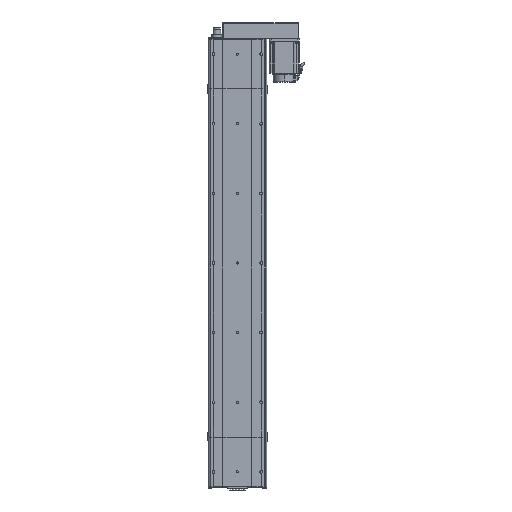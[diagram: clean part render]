
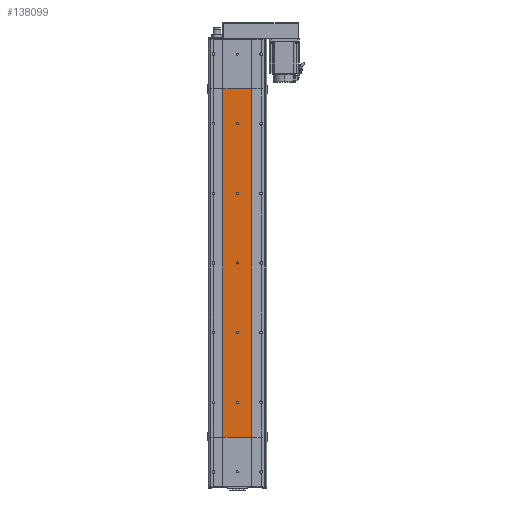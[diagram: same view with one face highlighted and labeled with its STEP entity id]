
A CAD part, front view. The second image highlights one B-rep face of the part: STEP entity #138099.
In plain terms, the highlighted planar face has unit normal (0, -1, 0).
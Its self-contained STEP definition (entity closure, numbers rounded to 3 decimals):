
#26513 = CARTESIAN_POINT ( 'NONE',  ( 0., 0., 97. ) ) ;
#28326 = DIRECTION ( 'NONE',  ( 0., 0., -1. ) ) ;
#28327 = DIRECTION ( 'NONE',  ( 0., -1., 0. ) ) ;
#28328 = CARTESIAN_POINT ( 'NONE',  ( 0., 0., 700. ) ) ;
#28343 = CARTESIAN_POINT ( 'NONE',  ( 0., 0., 497. ) ) ;
#28349 = AXIS2_PLACEMENT_3D ( 'NONE', #28328, #28327, #28326 ) ;
#28413 = CARTESIAN_POINT ( 'NONE',  ( 0., 0., 103. ) ) ;
#28511 = CIRCLE ( 'NONE', #28349, 3. ) ;
#28536 = CARTESIAN_POINT ( 'NONE',  ( 0., 0., 897. ) ) ;
#28731 = CARTESIAN_POINT ( 'NONE',  ( 0., 0., 903. ) ) ;
#28732 = AXIS2_PLACEMENT_3D ( 'NONE', #29014, #29012, #29011 ) ;
#28966 = CIRCLE ( 'NONE', #28732, 3. ) ;
#29011 = DIRECTION ( 'NONE',  ( 0., 0., -1. ) ) ;
#29012 = DIRECTION ( 'NONE',  ( 0., -1., 0. ) ) ;
#29014 = CARTESIAN_POINT ( 'NONE',  ( 0., 0., 900. ) ) ;
#29219 = DIRECTION ( 'NONE',  ( 0., 0., -1. ) ) ;
#29220 = AXIS2_PLACEMENT_3D ( 'NONE', #29224, #29235, #29219 ) ;
#29224 = CARTESIAN_POINT ( 'NONE',  ( 0., 0., 100. ) ) ;
#29233 = CIRCLE ( 'NONE', #29220, 3. ) ;
#29235 = DIRECTION ( 'NONE',  ( 0., -1., 0. ) ) ;
#29862 = AXIS2_PLACEMENT_3D ( 'NONE', #30709, #30715, #30660 ) ;
#29863 = CIRCLE ( 'NONE', #29862, 3. ) ;
#29941 = CARTESIAN_POINT ( 'NONE',  ( 0., 0., 303. ) ) ;
#30153 = AXIS2_PLACEMENT_3D ( 'NONE', #30388, #30387, #30386 ) ;
#30158 = CIRCLE ( 'NONE', #30153, 3. ) ;
#30307 = CARTESIAN_POINT ( 'NONE',  ( 41.5, 0., 0. ) ) ;
#30357 = CARTESIAN_POINT ( 'NONE',  ( 0., 0., 703. ) ) ;
#30363 = CARTESIAN_POINT ( 'NONE',  ( 0., 0., 297. ) ) ;
#30364 = DIRECTION ( 'NONE',  ( 0., 0., -1. ) ) ;
#30365 = DIRECTION ( 'NONE',  ( 0., -1., 0. ) ) ;
#30366 = CARTESIAN_POINT ( 'NONE',  ( 0., 0., 500. ) ) ;
#30367 = AXIS2_PLACEMENT_3D ( 'NONE', #30366, #30365, #30364 ) ;
#30369 = CIRCLE ( 'NONE', #30367, 3. ) ;
#30386 = DIRECTION ( 'NONE',  ( 0., 0., -1. ) ) ;
#30387 = DIRECTION ( 'NONE',  ( 0., -1., 0. ) ) ;
#30388 = CARTESIAN_POINT ( 'NONE',  ( 0., 0., 900. ) ) ;
#30401 = CIRCLE ( 'NONE', #30647, 3. ) ;
#30495 = CARTESIAN_POINT ( 'NONE',  ( 0., 0., 697. ) ) ;
#30589 = LINE ( 'NONE', #30600, #30686 ) ;
#30598 = DIRECTION ( 'NONE',  ( 1., 0., 0. ) ) ;
#30600 = CARTESIAN_POINT ( 'NONE',  ( 0., 0., 1000. ) ) ;
#30644 = CARTESIAN_POINT ( 'NONE',  ( 0., 0., 300. ) ) ;
#30647 = AXIS2_PLACEMENT_3D ( 'NONE', #30644, #30741, #30740 ) ;
#30660 = DIRECTION ( 'NONE',  ( 0., 0., -1. ) ) ;
#30686 = VECTOR ( 'NONE', #30598, 1000. ) ;
#30709 = CARTESIAN_POINT ( 'NONE',  ( 0., 0., 700. ) ) ;
#30715 = DIRECTION ( 'NONE',  ( 0., -1., 0. ) ) ;
#30740 = DIRECTION ( 'NONE',  ( 0., 0., -1. ) ) ;
#30741 = DIRECTION ( 'NONE',  ( 0., -1., 0. ) ) ;
#30747 = CARTESIAN_POINT ( 'NONE',  ( 0., 0., 503. ) ) ;
#30922 = AXIS2_PLACEMENT_3D ( 'NONE', #31172, #31153, #31152 ) ;
#30928 = FACE_BOUND ( 'NONE', #137991, .T. ) ;
#30933 = FACE_BOUND ( 'NONE', #137792, .T. ) ;
#30961 = AXIS2_PLACEMENT_3D ( 'NONE', #31179, #31177, #31175 ) ;
#30964 = CARTESIAN_POINT ( 'NONE',  ( -41.5, 0., 1000. ) ) ;
#30966 = FACE_BOUND ( 'NONE', #138035, .T. ) ;
#31044 = FACE_BOUND ( 'NONE', #138227, .T. ) ;
#31047 = FACE_BOUND ( 'NONE', #137866, .T. ) ;
#31068 = PLANE ( 'NONE',  #30961 ) ;
#31152 = DIRECTION ( 'NONE',  ( 0., 0., -1. ) ) ;
#31153 = DIRECTION ( 'NONE',  ( 0., -1., 0. ) ) ;
#31172 = CARTESIAN_POINT ( 'NONE',  ( 0., 0., 300. ) ) ;
#31174 = CIRCLE ( 'NONE', #30922, 3. ) ;
#31175 = DIRECTION ( 'NONE',  ( 0., 0., 1. ) ) ;
#31177 = DIRECTION ( 'NONE',  ( 0., 1., 0. ) ) ;
#31179 = CARTESIAN_POINT ( 'NONE',  ( 0., 0., 1000. ) ) ;
#31200 = FACE_OUTER_BOUND ( 'NONE', #138095, .T. ) ;
#32098 = CARTESIAN_POINT ( 'NONE',  ( -41.5, 0., 0. ) ) ;
#32158 = CARTESIAN_POINT ( 'NONE',  ( 41.5, 0., 1000. ) ) ;
#32953 = DIRECTION ( 'NONE',  ( 1., 0., 0. ) ) ;
#32954 = VECTOR ( 'NONE', #32953, 1000. ) ;
#32955 = CARTESIAN_POINT ( 'NONE',  ( 0., 0., 0. ) ) ;
#32956 = LINE ( 'NONE', #33044, #33043 ) ;
#32960 = LINE ( 'NONE', #32955, #32954 ) ;
#33042 = DIRECTION ( 'NONE',  ( 0., 0., -1. ) ) ;
#33043 = VECTOR ( 'NONE', #33042, 1000. ) ;
#33044 = CARTESIAN_POINT ( 'NONE',  ( -41.5, 0., 1000. ) ) ;
#109526 = DIRECTION ( 'NONE',  ( 0., 0., -1. ) ) ;
#109527 = AXIS2_PLACEMENT_3D ( 'NONE', #109597, #109529, #109526 ) ;
#109529 = DIRECTION ( 'NONE',  ( 0., -1., 0. ) ) ;
#109572 = CIRCLE ( 'NONE', #109575, 3. ) ;
#109575 = AXIS2_PLACEMENT_3D ( 'NONE', #109732, #109731, #109729 ) ;
#109596 = CIRCLE ( 'NONE', #109527, 3. ) ;
#109597 = CARTESIAN_POINT ( 'NONE',  ( 0., 0., 100. ) ) ;
#109729 = DIRECTION ( 'NONE',  ( 0., 0., -1. ) ) ;
#109731 = DIRECTION ( 'NONE',  ( 0., -1., 0. ) ) ;
#109732 = CARTESIAN_POINT ( 'NONE',  ( 0., 0., 500. ) ) ;
#109815 = CARTESIAN_POINT ( 'NONE',  ( 41.5, 0., 1000. ) ) ;
#109850 = LINE ( 'NONE', #109815, #110023 ) ;
#110022 = DIRECTION ( 'NONE',  ( 0., 0., -1. ) ) ;
#110023 = VECTOR ( 'NONE', #110022, 1000. ) ;
#137284 = VERTEX_POINT ( 'NONE', #26513 ) ;
#137511 = VERTEX_POINT ( 'NONE', #28413 ) ;
#137538 = VERTEX_POINT ( 'NONE', #28536 ) ;
#137564 = VERTEX_POINT ( 'NONE', #28343 ) ;
#137569 = EDGE_CURVE ( 'NONE', #137856, #137908, #28511, .T. ) ;
#137588 = EDGE_CURVE ( 'NONE', #137589, #137538, #28966, .T. ) ;
#137589 = VERTEX_POINT ( 'NONE', #28731 ) ;
#137655 = EDGE_CURVE ( 'NONE', #137511, #137284, #29233, .T. ) ;
#137792 = EDGE_LOOP ( 'NONE', ( #137858, #138247 ) ) ;
#137806 = VERTEX_POINT ( 'NONE', #29941 ) ;
#137851 = EDGE_CURVE ( 'NONE', #137962, #137564, #30369, .T. ) ;
#137854 = VERTEX_POINT ( 'NONE', #30363 ) ;
#137856 = VERTEX_POINT ( 'NONE', #30357 ) ;
#137858 = ORIENTED_EDGE ( 'NONE', *, *, #137883, .F. ) ;
#137863 = VERTEX_POINT ( 'NONE', #30307 ) ;
#137866 = EDGE_LOOP ( 'NONE', ( #138145, #138415 ) ) ;
#137883 = EDGE_CURVE ( 'NONE', #137538, #137589, #30158, .T. ) ;
#137908 = VERTEX_POINT ( 'NONE', #30495 ) ;
#137959 = EDGE_CURVE ( 'NONE', #137806, #137854, #30401, .T. ) ;
#137962 = VERTEX_POINT ( 'NONE', #30747 ) ;
#137966 = ORIENTED_EDGE ( 'NONE', *, *, #138106, .F. ) ;
#137968 = EDGE_CURVE ( 'NONE', #138094, #138289, #30589, .T. ) ;
#137991 = EDGE_LOOP ( 'NONE', ( #137966, #138091 ) ) ;
#138010 = ORIENTED_EDGE ( 'NONE', *, *, #138105, .F. ) ;
#138035 = EDGE_LOOP ( 'NONE', ( #138010, #138101 ) ) ;
#138091 = ORIENTED_EDGE ( 'NONE', *, *, #137569, .F. ) ;
#138094 = VERTEX_POINT ( 'NONE', #30964 ) ;
#138095 = EDGE_LOOP ( 'NONE', ( #138102, #138385, #138241, #138287 ) ) ;
#138099 = ADVANCED_FACE ( 'NONE', ( #30966, #30928, #31200, #30933, #31047, #31044 ), #31068, .F. ) ;
#138101 = ORIENTED_EDGE ( 'NONE', *, *, #137959, .F. ) ;
#138102 = ORIENTED_EDGE ( 'NONE', *, *, #137968, .F. ) ;
#138105 = EDGE_CURVE ( 'NONE', #137854, #137806, #31174, .T. ) ;
#138106 = EDGE_CURVE ( 'NONE', #137908, #137856, #29863, .T. ) ;
#138145 = ORIENTED_EDGE ( 'NONE', *, *, #138412, .F. ) ;
#138227 = EDGE_LOOP ( 'NONE', ( #138429, #138290 ) ) ;
#138231 = VERTEX_POINT ( 'NONE', #32098 ) ;
#138241 = ORIENTED_EDGE ( 'NONE', *, *, #138379, .T. ) ;
#138247 = ORIENTED_EDGE ( 'NONE', *, *, #137588, .F. ) ;
#138287 = ORIENTED_EDGE ( 'NONE', *, *, #138430, .F. ) ;
#138289 = VERTEX_POINT ( 'NONE', #32158 ) ;
#138290 = ORIENTED_EDGE ( 'NONE', *, *, #137655, .F. ) ;
#138379 = EDGE_CURVE ( 'NONE', #138231, #137863, #32960, .T. ) ;
#138383 = EDGE_CURVE ( 'NONE', #138094, #138231, #32956, .T. ) ;
#138385 = ORIENTED_EDGE ( 'NONE', *, *, #138383, .T. ) ;
#138412 = EDGE_CURVE ( 'NONE', #137564, #137962, #109572, .T. ) ;
#138415 = ORIENTED_EDGE ( 'NONE', *, *, #137851, .F. ) ;
#138416 = EDGE_CURVE ( 'NONE', #137284, #137511, #109596, .T. ) ;
#138429 = ORIENTED_EDGE ( 'NONE', *, *, #138416, .F. ) ;
#138430 = EDGE_CURVE ( 'NONE', #138289, #137863, #109850, .T. ) ;
